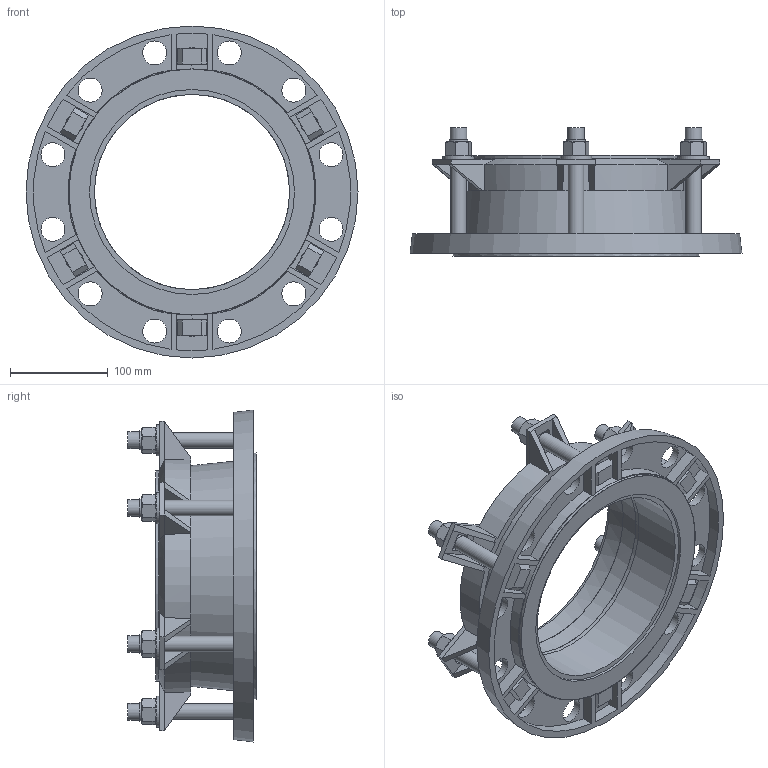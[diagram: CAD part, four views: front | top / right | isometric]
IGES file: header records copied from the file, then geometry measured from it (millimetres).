
Start section: SolidWorks IGES file using analytic representation for surfaces
Global section: file name: \\avksan2\techshare\PBM outline export from Enovia\O_623_10_DN200-200mm_X1XXXXX_REV01.igs; native system: SolidWorks 2019; preprocessor: SolidWorks 2019; author: pbm; date: 200417.110023; units: millimetre
Bounding box: 340 x 131.5 x 340 mm (x, y, z)
Surface area: 374951.1 mm2 (no closed solid volume)
Topology: 0 solids, 0 shells, 497 faces, 2428 edges, 2363 vertices
Faces by surface type: bspline 290, revolution 207
